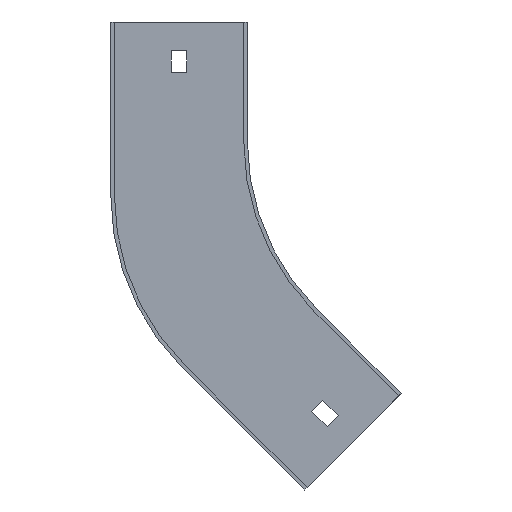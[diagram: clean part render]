
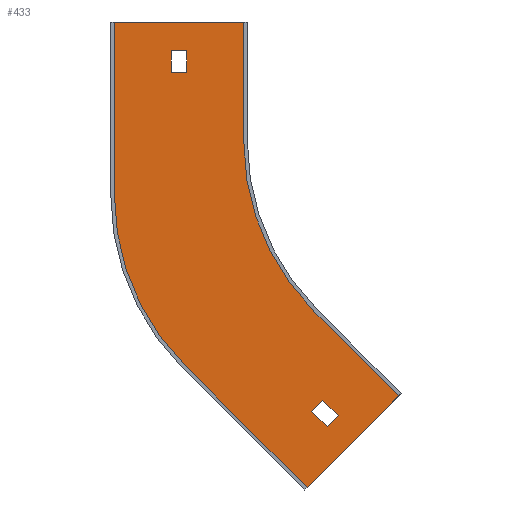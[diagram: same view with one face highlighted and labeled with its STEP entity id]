
A CAD part, front view. The second image highlights one B-rep face of the part: STEP entity #433.
In plain terms, the highlighted planar face has unit normal (0, -1, 0).
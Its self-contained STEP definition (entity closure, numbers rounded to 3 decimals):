
#9 = VECTOR ( 'NONE', #120, 1000. ) ;
#15 = CARTESIAN_POINT ( 'NONE',  ( -92.101, -1.5, -92.101 ) ) ;
#18 = LINE ( 'NONE', #545, #408 ) ;
#29 = CARTESIAN_POINT ( 'NONE',  ( -70.711, -1.5, -70.711 ) ) ;
#34 = VERTEX_POINT ( 'NONE', #695 ) ;
#36 = EDGE_CURVE ( 'NONE', #845, #619, #841, .T. ) ;
#39 = CARTESIAN_POINT ( 'NONE',  ( 20.506, -1.5, -20.506 ) ) ;
#55 = AXIS2_PLACEMENT_3D ( 'NONE', #104, #370, #445 ) ;
#57 = VECTOR ( 'NONE', #262, 1000. ) ;
#65 = VECTOR ( 'NONE', #472, 1000. ) ;
#75 = EDGE_CURVE ( 'NONE', #252, #84, #796, .T. ) ;
#78 = ORIENTED_EDGE ( 'NONE', *, *, #323, .T. ) ;
#84 = VERTEX_POINT ( 'NONE', #394 ) ;
#90 = ORIENTED_EDGE ( 'NONE', *, *, #103, .F. ) ;
#91 = LINE ( 'NONE', #694, #139 ) ;
#99 = ORIENTED_EDGE ( 'NONE', *, *, #725, .F. ) ;
#102 = LINE ( 'NONE', #39, #489 ) ;
#103 = EDGE_CURVE ( 'NONE', #619, #252, #500, .T. ) ;
#104 = CARTESIAN_POINT ( 'NONE',  ( -54., -1.5, -22.368 ) ) ;
#106 = CARTESIAN_POINT ( 'NONE',  ( -130.25, -1.5, 29. ) ) ;
#110 = LINE ( 'NONE', #824, #741 ) ;
#111 = VERTEX_POINT ( 'NONE', #635 ) ;
#112 = CIRCLE ( 'NONE', #357, 100. ) ;
#120 = DIRECTION ( 'NONE',  ( 0., 0., 1. ) ) ;
#123 = ORIENTED_EDGE ( 'NONE', *, *, #605, .F. ) ;
#125 = DIRECTION ( 'NONE',  ( 0.707, 0., 0.707 ) ) ;
#126 = DIRECTION ( 'NONE',  ( -0.707, 0., -0.707 ) ) ;
#139 = VECTOR ( 'NONE', #165, 1000. ) ;
#165 = DIRECTION ( 'NONE',  ( 0., 0., -1. ) ) ;
#169 = DIRECTION ( 'NONE',  ( 0., -1., 0. ) ) ;
#187 = CARTESIAN_POINT ( 'NONE',  ( 26.87, -1.5, -26.87 ) ) ;
#194 = LINE ( 'NONE', #720, #596 ) ;
#195 = VERTEX_POINT ( 'NONE', #291 ) ;
#196 = CARTESIAN_POINT ( 'NONE',  ( -123.75, -1.5, 29. ) ) ;
#197 = ORIENTED_EDGE ( 'NONE', *, *, #373, .F. ) ;
#201 = VECTOR ( 'NONE', #125, 1000. ) ;
#221 = DIRECTION ( 'NONE',  ( 0., 0., 1. ) ) ;
#225 = EDGE_LOOP ( 'NONE', ( #383, #815, #90, #730, #99, #462, #197, #427 ) ) ;
#231 = PLANE ( 'NONE',  #305 ) ;
#241 = CARTESIAN_POINT ( 'NONE',  ( -66.998, -1.5, -108.011 ) ) ;
#246 = EDGE_CURVE ( 'NONE', #84, #325, #18, .T. ) ;
#252 = VERTEX_POINT ( 'NONE', #551 ) ;
#262 = DIRECTION ( 'NONE',  ( -0.707, 0., 0.707 ) ) ;
#263 = ORIENTED_EDGE ( 'NONE', *, *, #631, .T. ) ;
#268 = DIRECTION ( 'NONE',  ( 1., 0., 0. ) ) ;
#276 = DIRECTION ( 'NONE',  ( 0.707, 0., -0.707 ) ) ;
#291 = CARTESIAN_POINT ( 'NONE',  ( -35.355, -1.5, -106.066 ) ) ;
#293 = FACE_BOUND ( 'NONE', #574, .T. ) ;
#305 = AXIS2_PLACEMENT_3D ( 'NONE', #497, #762, #698 ) ;
#313 = DIRECTION ( 'NONE',  ( -0.707, 0., 0.707 ) ) ;
#319 = ORIENTED_EDGE ( 'NONE', *, *, #693, .T. ) ;
#321 = LINE ( 'NONE', #710, #586 ) ;
#323 = EDGE_CURVE ( 'NONE', #385, #492, #665, .T. ) ;
#325 = VERTEX_POINT ( 'NONE', #535 ) ;
#340 = LINE ( 'NONE', #606, #57 ) ;
#344 = LINE ( 'NONE', #15, #488 ) ;
#348 = VERTEX_POINT ( 'NONE', #196 ) ;
#353 = LINE ( 'NONE', #29, #661 ) ;
#357 = AXIS2_PLACEMENT_3D ( 'NONE', #691, #169, #436 ) ;
#365 = EDGE_CURVE ( 'NONE', #111, #471, #344, .T. ) ;
#370 = DIRECTION ( 'NONE',  ( 0., 1., 0. ) ) ;
#373 = EDGE_CURVE ( 'NONE', #532, #34, #112, .T. ) ;
#377 = DIRECTION ( 'NONE',  ( 0., 0., -1. ) ) ;
#381 = CARTESIAN_POINT ( 'NONE',  ( -60.634, -1.5, -114.375 ) ) ;
#383 = ORIENTED_EDGE ( 'NONE', *, *, #246, .F. ) ;
#385 = VERTEX_POINT ( 'NONE', #567 ) ;
#394 = CARTESIAN_POINT ( 'NONE',  ( -154., -1.5, 50. ) ) ;
#398 = EDGE_CURVE ( 'NONE', #34, #195, #353, .T. ) ;
#407 = LINE ( 'NONE', #682, #65 ) ;
#408 = VECTOR ( 'NONE', #629, 1000. ) ;
#427 = ORIENTED_EDGE ( 'NONE', *, *, #847, .F. ) ;
#433 = ADVANCED_FACE ( 'NONE', ( #293, #562, #829 ), #231, .T. ) ;
#436 = DIRECTION ( 'NONE',  ( 0., 0., -1. ) ) ;
#443 = CARTESIAN_POINT ( 'NONE',  ( -73.539, -1.5, -144.25 ) ) ;
#445 = DIRECTION ( 'NONE',  ( 0., 0., -1. ) ) ;
#462 = ORIENTED_EDGE ( 'NONE', *, *, #398, .F. ) ;
#466 = VERTEX_POINT ( 'NONE', #381 ) ;
#471 = VERTEX_POINT ( 'NONE', #511 ) ;
#472 = DIRECTION ( 'NONE',  ( -1., 0., 0. ) ) ;
#483 = EDGE_CURVE ( 'NONE', #348, #613, #407, .T. ) ;
#488 = VECTOR ( 'NONE', #276, 1000. ) ;
#489 = VECTOR ( 'NONE', #832, 1000. ) ;
#492 = VERTEX_POINT ( 'NONE', #529 ) ;
#497 = CARTESIAN_POINT ( 'NONE',  ( 0., -1.5, 0. ) ) ;
#500 = CIRCLE ( 'NONE', #55, 100. ) ;
#504 = CARTESIAN_POINT ( 'NONE',  ( -124.711, -1.5, -93.078 ) ) ;
#511 = CARTESIAN_POINT ( 'NONE',  ( -65.231, -1.5, -118.971 ) ) ;
#515 = LINE ( 'NONE', #187, #201 ) ;
#516 = EDGE_CURVE ( 'NONE', #466, #664, #340, .T. ) ;
#529 = CARTESIAN_POINT ( 'NONE',  ( -123.75, -1.5, 38. ) ) ;
#532 = VERTEX_POINT ( 'NONE', #539 ) ;
#535 = CARTESIAN_POINT ( 'NONE',  ( -100., -1.5, 50. ) ) ;
#539 = CARTESIAN_POINT ( 'NONE',  ( -100., -1.5, 0. ) ) ;
#543 = ORIENTED_EDGE ( 'NONE', *, *, #365, .F. ) ;
#545 = CARTESIAN_POINT ( 'NONE',  ( -155.5, -1.5, 50. ) ) ;
#551 = CARTESIAN_POINT ( 'NONE',  ( -154., -1.5, -22.368 ) ) ;
#562 = FACE_OUTER_BOUND ( 'NONE', #225, .T. ) ;
#567 = CARTESIAN_POINT ( 'NONE',  ( -130.25, -1.5, 38. ) ) ;
#574 = EDGE_LOOP ( 'NONE', ( #678, #673, #543, #123 ) ) ;
#586 = VECTOR ( 'NONE', #377, 1000. ) ;
#596 = VECTOR ( 'NONE', #126, 1000. ) ;
#603 = ORIENTED_EDGE ( 'NONE', *, *, #483, .T. ) ;
#605 = EDGE_CURVE ( 'NONE', #664, #111, #102, .T. ) ;
#606 = CARTESIAN_POINT ( 'NONE',  ( -87.504, -1.5, -87.504 ) ) ;
#613 = VERTEX_POINT ( 'NONE', #106 ) ;
#619 = VERTEX_POINT ( 'NONE', #504 ) ;
#629 = DIRECTION ( 'NONE',  ( 1., 0., 0. ) ) ;
#631 = EDGE_CURVE ( 'NONE', #492, #348, #91, .T. ) ;
#635 = CARTESIAN_POINT ( 'NONE',  ( -71.595, -1.5, -112.607 ) ) ;
#649 = VECTOR ( 'NONE', #313, 1000. ) ;
#661 = VECTOR ( 'NONE', #708, 1000. ) ;
#664 = VERTEX_POINT ( 'NONE', #241 ) ;
#665 = LINE ( 'NONE', #795, #753 ) ;
#673 = ORIENTED_EDGE ( 'NONE', *, *, #862, .F. ) ;
#678 = ORIENTED_EDGE ( 'NONE', *, *, #516, .F. ) ;
#682 = CARTESIAN_POINT ( 'NONE',  ( 0., -1.5, 29. ) ) ;
#688 = EDGE_LOOP ( 'NONE', ( #78, #263, #603, #319 ) ) ;
#691 = CARTESIAN_POINT ( 'NONE',  ( 0., -1.5, 0. ) ) ;
#693 = EDGE_CURVE ( 'NONE', #613, #385, #110, .T. ) ;
#694 = CARTESIAN_POINT ( 'NONE',  ( -123.75, -1.5, 0. ) ) ;
#695 = CARTESIAN_POINT ( 'NONE',  ( -70.711, -1.5, -70.711 ) ) ;
#698 = DIRECTION ( 'NONE',  ( 0., 0., -1. ) ) ;
#708 = DIRECTION ( 'NONE',  ( 0.707, 0., -0.707 ) ) ;
#710 = CARTESIAN_POINT ( 'NONE',  ( -100., -1.5, 50. ) ) ;
#720 = CARTESIAN_POINT ( 'NONE',  ( -34.295, -1.5, -105.005 ) ) ;
#721 = CARTESIAN_POINT ( 'NONE',  ( -154., -1.5, -22.368 ) ) ;
#725 = EDGE_CURVE ( 'NONE', #195, #845, #194, .T. ) ;
#730 = ORIENTED_EDGE ( 'NONE', *, *, #36, .F. ) ;
#741 = VECTOR ( 'NONE', #221, 1000. ) ;
#753 = VECTOR ( 'NONE', #268, 1000. ) ;
#762 = DIRECTION ( 'NONE',  ( 0., -1., 0. ) ) ;
#774 = CARTESIAN_POINT ( 'NONE',  ( -73.539, -1.5, -144.25 ) ) ;
#795 = CARTESIAN_POINT ( 'NONE',  ( 0., -1.5, 38. ) ) ;
#796 = LINE ( 'NONE', #721, #9 ) ;
#815 = ORIENTED_EDGE ( 'NONE', *, *, #75, .F. ) ;
#824 = CARTESIAN_POINT ( 'NONE',  ( -130.25, -1.5, 0. ) ) ;
#829 = FACE_BOUND ( 'NONE', #688, .T. ) ;
#832 = DIRECTION ( 'NONE',  ( -0.707, 0., -0.707 ) ) ;
#841 = LINE ( 'NONE', #443, #649 ) ;
#845 = VERTEX_POINT ( 'NONE', #774 ) ;
#847 = EDGE_CURVE ( 'NONE', #325, #532, #321, .T. ) ;
#862 = EDGE_CURVE ( 'NONE', #471, #466, #515, .T. ) ;
